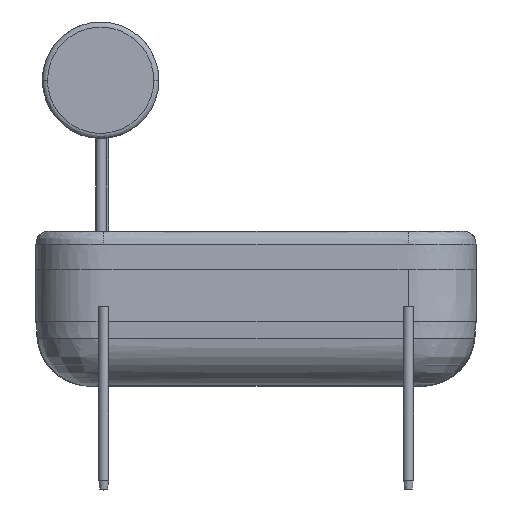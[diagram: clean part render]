
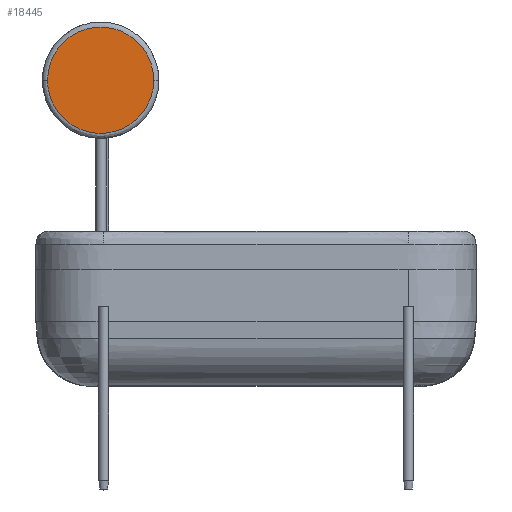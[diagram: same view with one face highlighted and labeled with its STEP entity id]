
A CAD part, left-side view. The second image highlights one B-rep face of the part: STEP entity #18445.
In plain terms, the highlighted planar face has unit normal (-1, 0, 0).
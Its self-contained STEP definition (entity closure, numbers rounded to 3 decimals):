
#1442 = CARTESIAN_POINT ( 'NONE',  ( -2117.44, 370.459, 913.163 ) ) ;
#1443 = CARTESIAN_POINT ( 'NONE',  ( -2117.44, 231.619, 953.009 ) ) ;
#1444 = CARTESIAN_POINT ( 'NONE',  ( -2117.44, 222.081, 941.556 ) ) ;
#1445 = CARTESIAN_POINT ( 'NONE',  ( -2117.44, 207.922, 901.565 ) ) ;
#1456 = CARTESIAN_POINT ( 'NONE',  ( -2117.44, 371.925, 901.565 ) ) ;
#1458 = CARTESIAN_POINT ( 'NONE',  ( -2117.44, 348.227, 953.009 ) ) ;
#1459 = CARTESIAN_POINT ( 'NONE',  ( -2117.44, 308.38, 975.242 ) ) ;
#1462 = CARTESIAN_POINT ( 'NONE',  ( -2117.44, 214.872, 928.783 ) ) ;
#1463 = CARTESIAN_POINT ( 'NONE',  ( -2117.44, 207.922, 894.706 ) ) ;
#1464 = CARTESIAN_POINT ( 'NONE',  ( -2117.44, 209.387, 913.163 ) ) ;
#1476 = CARTESIAN_POINT ( 'NONE',  ( -2117.44, 371.923, 894.706 ) ) ;
#1478 = CARTESIAN_POINT ( 'NONE',  ( -2117.44, 357.765, 941.556 ) ) ;
#1483 = CARTESIAN_POINT ( 'NONE',  ( -2117.44, 336.773, 962.548 ) ) ;
#1484 = CARTESIAN_POINT ( 'NONE',  ( -2117.44, 324., 969.757 ) ) ;
#1485 = CARTESIAN_POINT ( 'NONE',  ( -2117.44, 289.923, 977.572 ) ) ;
#1489 = CARTESIAN_POINT ( 'NONE',  ( -2117.44, 364.974, 928.783 ) ) ;
#1490 = CARTESIAN_POINT ( 'NONE',  ( -2117.44, 271.465, 975.242 ) ) ;
#1495 = CARTESIAN_POINT ( 'NONE',  ( -2117.44, 255.846, 969.757 ) ) ;
#1496 = CARTESIAN_POINT ( 'NONE',  ( -2117.44, 243.073, 962.548 ) ) ;
#3448 = AXIS2_PLACEMENT_3D ( 'NONE', #5558, #5559, #5560 ) ;
#3607 = CARTESIAN_POINT ( 'NONE',  ( -2117.44, 336.773, 826.863 ) ) ;
#3608 = CARTESIAN_POINT ( 'NONE',  ( -2117.44, 370.459, 876.248 ) ) ;
#3609 = CARTESIAN_POINT ( 'NONE',  ( -2117.44, 371.925, 887.846 ) ) ;
#3616 = CARTESIAN_POINT ( 'NONE',  ( -2117.44, 207.922, 894.706 ) ) ;
#3631 = CARTESIAN_POINT ( 'NONE',  ( -2117.44, 255.846, 819.654 ) ) ;
#3639 = CARTESIAN_POINT ( 'NONE',  ( -2117.44, 209.386, 876.248 ) ) ;
#3641 = CARTESIAN_POINT ( 'NONE',  ( -2117.44, 231.619, 836.402 ) ) ;
#3643 = CARTESIAN_POINT ( 'NONE',  ( -2117.44, 271.465, 814.169 ) ) ;
#3644 = CARTESIAN_POINT ( 'NONE',  ( -2117.44, 289.923, 811.839 ) ) ;
#3652 = CARTESIAN_POINT ( 'NONE',  ( -2117.44, 222.081, 847.855 ) ) ;
#3653 = CARTESIAN_POINT ( 'NONE',  ( -2117.44, 308.381, 814.169 ) ) ;
#3654 = CARTESIAN_POINT ( 'NONE',  ( -2117.44, 324., 819.655 ) ) ;
#3655 = CARTESIAN_POINT ( 'NONE',  ( -2117.44, 348.227, 836.402 ) ) ;
#3656 = CARTESIAN_POINT ( 'NONE',  ( -2117.44, 357.765, 847.855 ) ) ;
#3657 = CARTESIAN_POINT ( 'NONE',  ( -2117.44, 364.974, 860.628 ) ) ;
#3662 = CARTESIAN_POINT ( 'NONE',  ( -2117.44, 207.922, 887.846 ) ) ;
#3663 = CARTESIAN_POINT ( 'NONE',  ( -2117.44, 214.872, 860.628 ) ) ;
#3664 = CARTESIAN_POINT ( 'NONE',  ( -2117.44, 243.073, 826.864 ) ) ;
#3713 = CARTESIAN_POINT ( 'NONE',  ( -2117.44, 371.923, 894.706 ) ) ;
#5071 = FACE_OUTER_BOUND ( 'NONE', #17791, .T. ) ;
#5552 = PLANE ( 'NONE',  #3448 ) ;
#5558 = CARTESIAN_POINT ( 'NONE',  ( -2117.44, 177.423, 782.206 ) ) ;
#5559 = DIRECTION ( 'NONE',  ( -1., 0., 0. ) ) ;
#5560 = DIRECTION ( 'NONE',  ( 0., 0., 1. ) ) ;
#10634 = EDGE_CURVE ( 'NONE', #18162, #18176, #19843, .T. ) ;
#10654 = EDGE_CURVE ( 'NONE', #18176, #18162, #19858, .T. ) ;
#17791 = EDGE_LOOP ( 'NONE', ( #18843, #18849 ) ) ;
#18162 = VERTEX_POINT ( 'NONE', #27642 ) ;
#18176 = VERTEX_POINT ( 'NONE', #27603 ) ;
#18445 = ADVANCED_FACE ( 'NONE', ( #5071 ), #5552, .T. ) ;
#18843 = ORIENTED_EDGE ( 'NONE', *, *, #10654, .F. ) ;
#18849 = ORIENTED_EDGE ( 'NONE', *, *, #10634, .F. ) ;
#19843 = B_SPLINE_CURVE_WITH_KNOTS ( 'NONE', 3,
 ( #1476, #1456, #1442, #1489, #1478, #1458, #1483, #1484, #1459, #1485, #1490, #1495, #1496, #1443, #1444, #1462, #1464, #1445, #1463 ),
 .UNSPECIFIED., .F., .F.,
 ( 4, 1, 1, 1, 1, 1, 1, 1, 1, 1, 1, 1, 1, 1, 1, 1, 4 ),
 ( 0., 0.08, 0.135, 0.192, 0.25, 0.308, 0.365, 0.42, 0.5, 0.58, 0.635, 0.692, 0.75, 0.808, 0.865, 0.92, 1. ),
 .UNSPECIFIED. ) ;
#19858 = B_SPLINE_CURVE_WITH_KNOTS ( 'NONE', 3,
 ( #3616, #3662, #3639, #3663, #3652, #3641, #3664, #3631, #3643, #3644, #3653, #3654, #3607, #3655, #3656, #3657, #3608, #3609, #3713 ),
 .UNSPECIFIED., .F., .F.,
 ( 4, 1, 1, 1, 1, 1, 1, 1, 1, 1, 1, 1, 1, 1, 1, 1, 4 ),
 ( 0., 0.08, 0.135, 0.192, 0.25, 0.308, 0.365, 0.42, 0.5, 0.58, 0.635, 0.692, 0.75, 0.808, 0.865, 0.92, 1. ),
 .UNSPECIFIED. ) ;
#27603 = CARTESIAN_POINT ( 'NONE',  ( -2117.44, 207.922, 894.706 ) ) ;
#27642 = CARTESIAN_POINT ( 'NONE',  ( -2117.44, 371.923, 894.706 ) ) ;
